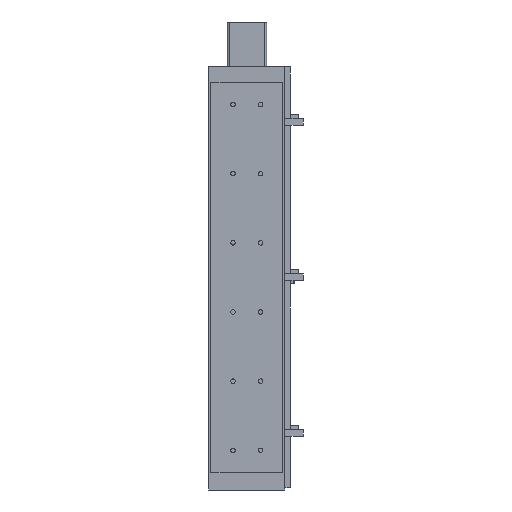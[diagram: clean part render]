
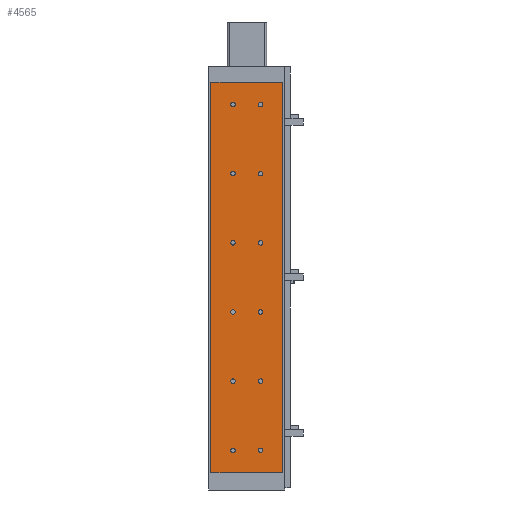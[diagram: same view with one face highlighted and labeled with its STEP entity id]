
A CAD part, front view. The second image highlights one B-rep face of the part: STEP entity #4565.
In plain terms, the highlighted planar face has unit normal (0, -1, 0).
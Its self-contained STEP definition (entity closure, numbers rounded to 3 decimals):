
#136=CARTESIAN_POINT('',(16.75,0.,557.5));
#137=VERTEX_POINT('',#136);
#138=CARTESIAN_POINT('',(20.,0.0,557.5));
#139=DIRECTION('',(0.0,1.0,0.0));
#140=DIRECTION('',(1.0,0.0,0.0));
#141=AXIS2_PLACEMENT_3D('',#138,#139,#140);
#142=CIRCLE('',#141,3.25);
#143=EDGE_CURVE('',#137,#137,#142,.T.);
#182=CARTESIAN_POINT('',(-23.25,0.,557.5));
#183=VERTEX_POINT('',#182);
#184=CARTESIAN_POINT('',(-20.,0.0,557.5));
#185=DIRECTION('',(0.0,1.0,0.0));
#186=DIRECTION('',(1.0,0.0,0.0));
#187=AXIS2_PLACEMENT_3D('',#184,#185,#186);
#188=CIRCLE('',#187,3.25);
#189=EDGE_CURVE('',#183,#183,#188,.T.);
#290=CARTESIAN_POINT('',(16.75,0.,457.5));
#291=VERTEX_POINT('',#290);
#292=CARTESIAN_POINT('',(20.,0.0,457.5));
#293=DIRECTION('',(0.0,1.0,0.0));
#294=DIRECTION('',(1.0,0.0,0.0));
#295=AXIS2_PLACEMENT_3D('',#292,#293,#294);
#296=CIRCLE('',#295,3.25);
#297=EDGE_CURVE('',#291,#291,#296,.T.);
#336=CARTESIAN_POINT('',(-23.25,0.,457.5));
#337=VERTEX_POINT('',#336);
#338=CARTESIAN_POINT('',(-20.,0.0,457.5));
#339=DIRECTION('',(0.0,1.0,0.0));
#340=DIRECTION('',(1.0,0.0,0.0));
#341=AXIS2_PLACEMENT_3D('',#338,#339,#340);
#342=CIRCLE('',#341,3.25);
#343=EDGE_CURVE('',#337,#337,#342,.T.);
#444=CARTESIAN_POINT('',(16.75,0.,157.5));
#445=VERTEX_POINT('',#444);
#446=CARTESIAN_POINT('',(20.,0.0,157.5));
#447=DIRECTION('',(0.0,1.0,0.0));
#448=DIRECTION('',(1.0,0.0,0.0));
#449=AXIS2_PLACEMENT_3D('',#446,#447,#448);
#450=CIRCLE('',#449,3.25);
#451=EDGE_CURVE('',#445,#445,#450,.T.);
#490=CARTESIAN_POINT('',(-23.25,0.,157.5));
#491=VERTEX_POINT('',#490);
#492=CARTESIAN_POINT('',(-20.,0.0,157.5));
#493=DIRECTION('',(0.0,1.0,0.0));
#494=DIRECTION('',(1.0,0.0,0.0));
#495=AXIS2_PLACEMENT_3D('',#492,#493,#494);
#496=CIRCLE('',#495,3.25);
#497=EDGE_CURVE('',#491,#491,#496,.T.);
#598=CARTESIAN_POINT('',(16.75,0.,57.5));
#599=VERTEX_POINT('',#598);
#600=CARTESIAN_POINT('',(20.,0.0,57.5));
#601=DIRECTION('',(0.0,1.0,0.0));
#602=DIRECTION('',(1.0,0.0,0.0));
#603=AXIS2_PLACEMENT_3D('',#600,#601,#602);
#604=CIRCLE('',#603,3.25);
#605=EDGE_CURVE('',#599,#599,#604,.T.);
#644=CARTESIAN_POINT('',(-23.25,0.,57.5));
#645=VERTEX_POINT('',#644);
#646=CARTESIAN_POINT('',(-20.,0.0,57.5));
#647=DIRECTION('',(0.0,1.0,0.0));
#648=DIRECTION('',(1.0,0.0,0.0));
#649=AXIS2_PLACEMENT_3D('',#646,#647,#648);
#650=CIRCLE('',#649,3.25);
#651=EDGE_CURVE('',#645,#645,#650,.T.);
#752=CARTESIAN_POINT('',(16.75,0.,357.5));
#753=VERTEX_POINT('',#752);
#754=CARTESIAN_POINT('',(20.,0.0,357.5));
#755=DIRECTION('',(0.0,1.0,0.0));
#756=DIRECTION('',(1.0,0.0,0.0));
#757=AXIS2_PLACEMENT_3D('',#754,#755,#756);
#758=CIRCLE('',#757,3.25);
#759=EDGE_CURVE('',#753,#753,#758,.T.);
#829=CARTESIAN_POINT('',(-23.25,0.,357.5));
#830=VERTEX_POINT('',#829);
#831=CARTESIAN_POINT('',(-20.,0.0,357.5));
#832=DIRECTION('',(0.0,1.0,0.0));
#833=DIRECTION('',(1.0,0.0,0.0));
#834=AXIS2_PLACEMENT_3D('',#831,#832,#833);
#835=CIRCLE('',#834,3.25);
#836=EDGE_CURVE('',#830,#830,#835,.T.);
#906=CARTESIAN_POINT('',(16.75,0.,257.5));
#907=VERTEX_POINT('',#906);
#908=CARTESIAN_POINT('',(20.,0.0,257.5));
#909=DIRECTION('',(0.0,1.0,0.0));
#910=DIRECTION('',(1.0,0.0,0.0));
#911=AXIS2_PLACEMENT_3D('',#908,#909,#910);
#912=CIRCLE('',#911,3.25);
#913=EDGE_CURVE('',#907,#907,#912,.T.);
#983=CARTESIAN_POINT('',(-23.25,0.,257.5));
#984=VERTEX_POINT('',#983);
#985=CARTESIAN_POINT('',(-20.,0.0,257.5));
#986=DIRECTION('',(0.0,1.0,0.0));
#987=DIRECTION('',(1.0,0.0,0.0));
#988=AXIS2_PLACEMENT_3D('',#985,#986,#987);
#989=CIRCLE('',#988,3.25);
#990=EDGE_CURVE('',#984,#984,#989,.T.);
#4450=CARTESIAN_POINT('',(52.,0.,25.));
#4451=VERTEX_POINT('',#4450);
#4458=CARTESIAN_POINT('',(-52.0,0.,25.));
#4459=VERTEX_POINT('',#4458);
#4460=CARTESIAN_POINT('',(-52.0,0.,25.));
#4461=DIRECTION('',(1.0,0.0,0.0));
#4462=VECTOR('',#4461,104.0);
#4463=LINE('',#4460,#4462);
#4464=EDGE_CURVE('',#4459,#4451,#4463,.T.);
#4481=CARTESIAN_POINT('',(-52.,0.,590.0));
#4482=VERTEX_POINT('',#4481);
#4483=CARTESIAN_POINT('',(-52.0,0.,25.));
#4484=DIRECTION('',(0.0,0.0,1.0));
#4485=VECTOR('',#4484,565.0);
#4486=LINE('',#4483,#4485);
#4487=EDGE_CURVE('',#4459,#4482,#4486,.T.);
#4506=CARTESIAN_POINT('',(52.0,0.,0.0));
#4507=DIRECTION('',(0.0,-1.0,0.0));
#4508=DIRECTION('',(0.0,0.0,-1.0));
#4509=AXIS2_PLACEMENT_3D('',#4506,#4507,#4508);
#4510=PLANE('',#4509);
#4511=ORIENTED_EDGE('',*,*,#4464,.T.);
#4512=CARTESIAN_POINT('',(52.,0.,590.0));
#4513=VERTEX_POINT('',#4512);
#4514=CARTESIAN_POINT('',(52.,0.,25.));
#4515=DIRECTION('',(0.0,0.0,1.0));
#4516=VECTOR('',#4515,565.0);
#4517=LINE('',#4514,#4516);
#4518=EDGE_CURVE('',#4451,#4513,#4517,.T.);
#4519=ORIENTED_EDGE('',*,*,#4518,.T.);
#4520=CARTESIAN_POINT('',(52.,0.,590.0));
#4521=DIRECTION('',(-1.0,0.0,0.0));
#4522=VECTOR('',#4521,104.);
#4523=LINE('',#4520,#4522);
#4524=EDGE_CURVE('',#4513,#4482,#4523,.T.);
#4525=ORIENTED_EDGE('',*,*,#4524,.T.);
#4526=ORIENTED_EDGE('',*,*,#4487,.F.);
#4527=EDGE_LOOP('',(#4511,#4519,#4525,#4526));
#4528=FACE_OUTER_BOUND('',#4527,.T.);
#4529=ORIENTED_EDGE('',*,*,#143,.T.);
#4530=EDGE_LOOP('',(#4529));
#4531=FACE_BOUND('',#4530,.T.);
#4532=ORIENTED_EDGE('',*,*,#189,.T.);
#4533=EDGE_LOOP('',(#4532));
#4534=FACE_BOUND('',#4533,.T.);
#4535=ORIENTED_EDGE('',*,*,#297,.T.);
#4536=EDGE_LOOP('',(#4535));
#4537=FACE_BOUND('',#4536,.T.);
#4538=ORIENTED_EDGE('',*,*,#343,.T.);
#4539=EDGE_LOOP('',(#4538));
#4540=FACE_BOUND('',#4539,.T.);
#4541=ORIENTED_EDGE('',*,*,#451,.T.);
#4542=EDGE_LOOP('',(#4541));
#4543=FACE_BOUND('',#4542,.T.);
#4544=ORIENTED_EDGE('',*,*,#497,.T.);
#4545=EDGE_LOOP('',(#4544));
#4546=FACE_BOUND('',#4545,.T.);
#4547=ORIENTED_EDGE('',*,*,#605,.T.);
#4548=EDGE_LOOP('',(#4547));
#4549=FACE_BOUND('',#4548,.T.);
#4550=ORIENTED_EDGE('',*,*,#651,.T.);
#4551=EDGE_LOOP('',(#4550));
#4552=FACE_BOUND('',#4551,.T.);
#4553=ORIENTED_EDGE('',*,*,#759,.T.);
#4554=EDGE_LOOP('',(#4553));
#4555=FACE_BOUND('',#4554,.T.);
#4556=ORIENTED_EDGE('',*,*,#836,.T.);
#4557=EDGE_LOOP('',(#4556));
#4558=FACE_BOUND('',#4557,.T.);
#4559=ORIENTED_EDGE('',*,*,#913,.T.);
#4560=EDGE_LOOP('',(#4559));
#4561=FACE_BOUND('',#4560,.T.);
#4562=ORIENTED_EDGE('',*,*,#990,.T.);
#4563=EDGE_LOOP('',(#4562));
#4564=FACE_BOUND('',#4563,.T.);
#4565=ADVANCED_FACE('',(#4528,#4531,#4534,#4537,#4540,#4543,#4546,#4549,#4552,#4555,#4558,#4561,#4564),#4510,.T.);
